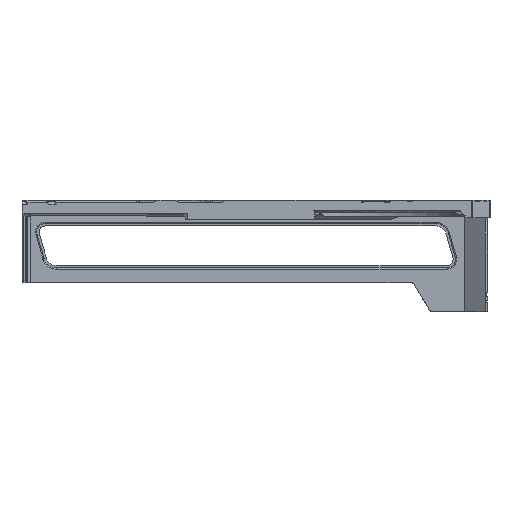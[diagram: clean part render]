
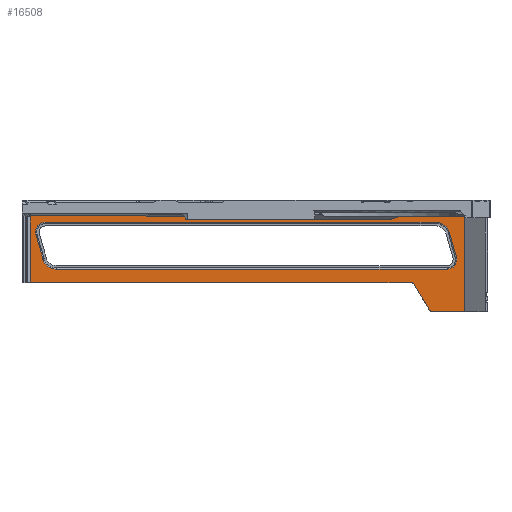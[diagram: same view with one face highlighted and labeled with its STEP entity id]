
A CAD part, front view. The second image highlights one B-rep face of the part: STEP entity #16508.
In plain terms, the highlighted planar face has unit normal (0, -1, 0).
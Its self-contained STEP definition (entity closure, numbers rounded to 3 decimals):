
#4031=DIRECTION('',(0.851,0.,-0.526));
#4032=VECTOR('',#4031,2.853);
#4033=CARTESIAN_POINT('',(79.098,60.6,-2.792));
#4034=LINE('',#4033,#4032);
#6463=CARTESIAN_POINT('',(140.828,60.6,-41.53));
#6464=DIRECTION('',(0.,1.,0.));
#6465=DIRECTION('',(0.,0.,-1.));
#6466=AXIS2_PLACEMENT_3D('',#6463,#6464,#6465);
#6478=CARTESIAN_POINT('',(142.343,60.6,-11.318));
#6479=DIRECTION('',(0.,1.,0.));
#6480=DIRECTION('',(0.,0.,1.));
#6481=AXIS2_PLACEMENT_3D('',#6478,#6479,#6480);
#6486=DIRECTION('',(1.,0.,0.));
#6487=VECTOR('',#6486,164.146);
#6488=CARTESIAN_POINT('',(-21.803,60.6,-5.518));
#6489=LINE('',#6488,#6487);
#6493=CARTESIAN_POINT('',(-21.803,60.6,-9.518));
#6494=DIRECTION('',(0.,1.,0.));
#6495=DIRECTION('',(-0.962,0.,-0.275));
#6496=AXIS2_PLACEMENT_3D('',#6493,#6494,#6495);
#6501=DIRECTION('',(-0.275,0.,0.962));
#6502=VECTOR('',#6501,10.706);
#6503=CARTESIAN_POINT('',(-22.708,60.6,-20.911));
#6504=LINE('',#6503,#6502);
#6508=CARTESIAN_POINT('',(-17.131,60.6,-19.318));
#6509=DIRECTION('',(0.,1.,0.));
#6510=DIRECTION('',(0.,0.,-1.));
#6511=AXIS2_PLACEMENT_3D('',#6508,#6509,#6510);
#6516=DIRECTION('',(-1.,0.,0.));
#6517=VECTOR('',#6516,164.146);
#6518=CARTESIAN_POINT('',(147.015,60.6,-25.118));
#6519=LINE('',#6518,#6517);
#6523=CARTESIAN_POINT('',(147.015,60.6,-21.118));
#6524=DIRECTION('',(0.,1.,0.));
#6525=DIRECTION('',(0.962,0.,0.275));
#6526=AXIS2_PLACEMENT_3D('',#6523,#6524,#6525);
#6531=DIRECTION('',(0.275,0.,-0.962));
#6532=VECTOR('',#6531,10.706);
#6533=CARTESIAN_POINT('',(147.92,60.6,-9.725));
#6534=LINE('',#6533,#6532);
#6538=DIRECTION('',(0.,0.,1.));
#6539=VECTOR('',#6538,28.026);
#6540=CARTESIAN_POINT('',(-27.945,60.6,-30.818));
#6541=LINE('',#6540,#6539);
#6545=DIRECTION('',(-1.,0.,0.));
#6546=VECTOR('',#6545,41.611);
#6547=CARTESIAN_POINT('',(123.136,60.6,-4.293));
#6548=LINE('',#6547,#6546);
#6552=DIRECTION('',(-0.851,0.,-0.526));
#6553=VECTOR('',#6552,3.254);
#6554=CARTESIAN_POINT('',(125.904,60.6,-2.582));
#6555=LINE('',#6554,#6553);
#6559=DIRECTION('',(-1.,0.,0.));
#6560=VECTOR('',#6559,13.449);
#6561=CARTESIAN_POINT('',(154.277,60.6,-43.03));
#6562=LINE('',#6561,#6560);
#6566=DIRECTION('',(-0.512,0.,0.859));
#6567=VECTOR('',#6566,12.513);
#6568=CARTESIAN_POINT('',(139.54,60.6,-42.298));
#6569=LINE('',#6568,#6567);
#6573=DIRECTION('',(-1.,0.,0.));
#6574=VECTOR('',#6573,159.789);
#6575=CARTESIAN_POINT('',(131.844,60.6,-30.818));
#6576=LINE('',#6575,#6574);
#7970=DIRECTION('',(-1.,0.,0.));
#7971=VECTOR('',#7970,107.041);
#7972=CARTESIAN_POINT('',(79.098,60.6,-2.792));
#7973=LINE('',#7972,#7971);
#8055=CARTESIAN_POINT('',(131.844,60.6,-32.318));
#8056=DIRECTION('',(0.,1.,0.));
#8057=DIRECTION('',(0.,0.,1.));
#8058=AXIS2_PLACEMENT_3D('',#8055,#8056,#8057);
#8329=DIRECTION('',(0.,0.,1.));
#8330=VECTOR('',#8329,40.162);
#8331=CARTESIAN_POINT('',(154.277,60.6,-43.03));
#8332=LINE('',#8331,#8330);
#8343=DIRECTION('',(0.861,0.,-0.508));
#8344=VECTOR('',#8343,0.563);
#8345=CARTESIAN_POINT('',(153.792,60.6,-2.582));
#8346=LINE('',#8345,#8344);
#8378=DIRECTION('',(1.,0.,0.));
#8379=VECTOR('',#8378,27.888);
#8380=CARTESIAN_POINT('',(125.904,60.6,-2.582));
#8381=LINE('',#8380,#8379);
#11157=CARTESIAN_POINT('',(153.792,60.6,-2.582));
#11158=CARTESIAN_POINT('',(154.277,60.6,-2.868));
#11159=VERTEX_POINT('',#11157);
#11160=VERTEX_POINT('',#11158);
#11167=CARTESIAN_POINT('',(140.828,60.6,-43.03));
#11168=CARTESIAN_POINT('',(139.54,60.6,-42.298));
#11169=VERTEX_POINT('',#11167);
#11170=VERTEX_POINT('',#11168);
#11171=CARTESIAN_POINT('',(131.844,60.6,-30.818));
#11172=CARTESIAN_POINT('',(133.133,60.6,-31.55));
#11173=VERTEX_POINT('',#11171);
#11174=VERTEX_POINT('',#11172);
#11175=CARTESIAN_POINT('',(125.904,60.6,-2.582));
#11176=VERTEX_POINT('',#11175);
#11177=CARTESIAN_POINT('',(123.136,60.6,-4.293));
#11178=VERTEX_POINT('',#11177);
#11179=CARTESIAN_POINT('',(81.525,60.6,-4.293));
#11180=VERTEX_POINT('',#11179);
#11181=CARTESIAN_POINT('',(154.277,60.6,-43.03));
#11182=VERTEX_POINT('',#11181);
#11183=CARTESIAN_POINT('',(79.098,60.6,-2.792));
#11184=VERTEX_POINT('',#11183);
#11185=CARTESIAN_POINT('',(142.343,60.6,-5.518));
#11186=CARTESIAN_POINT('',(147.92,60.6,-9.725));
#11187=VERTEX_POINT('',#11185);
#11188=VERTEX_POINT('',#11186);
#11193=CARTESIAN_POINT('',(150.861,60.6,-20.019));
#11194=VERTEX_POINT('',#11193);
#11197=CARTESIAN_POINT('',(147.015,60.6,-25.118));
#11198=VERTEX_POINT('',#11197);
#11201=CARTESIAN_POINT('',(-17.131,60.6,-25.118));
#11202=VERTEX_POINT('',#11201);
#11205=CARTESIAN_POINT('',(-22.708,60.6,-20.911));
#11206=VERTEX_POINT('',#11205);
#11209=CARTESIAN_POINT('',(-25.649,60.6,-10.617));
#11210=VERTEX_POINT('',#11209);
#11213=CARTESIAN_POINT('',(-21.803,60.6,-5.518));
#11214=VERTEX_POINT('',#11213);
#11217=CARTESIAN_POINT('',(-27.945,60.6,-30.818));
#11218=CARTESIAN_POINT('',(-27.943,60.6,-2.792));
#11219=VERTEX_POINT('',#11217);
#11220=VERTEX_POINT('',#11218);
#16461=CARTESIAN_POINT('',(162.5,60.6,0.));
#16462=DIRECTION('',(0.,1.,0.));
#16463=DIRECTION('',(-1.,0.,0.));
#16464=AXIS2_PLACEMENT_3D('',#16461,#16462,#16463);
#16465=PLANE('',#16464);
#16467=ORIENTED_EDGE('',*,*,#16466,.T.);
#16469=ORIENTED_EDGE('',*,*,#16468,.F.);
#16470=ORIENTED_EDGE('',*,*,#14416,.T.);
#16472=ORIENTED_EDGE('',*,*,#16471,.F.);
#16473=ORIENTED_EDGE('',*,*,#13116,.F.);
#16475=ORIENTED_EDGE('',*,*,#16474,.T.);
#16477=ORIENTED_EDGE('',*,*,#16476,.T.);
#16479=ORIENTED_EDGE('',*,*,#16478,.F.);
#16480=ORIENTED_EDGE('',*,*,#16439,.T.);
#16481=ORIENTED_EDGE('',*,*,#16452,.T.);
#16483=ORIENTED_EDGE('',*,*,#16482,.T.);
#16485=ORIENTED_EDGE('',*,*,#16484,.F.);
#16487=ORIENTED_EDGE('',*,*,#16486,.T.);
#16488=EDGE_LOOP('',(#16467,#16469,#16470,#16472,#16473,#16475,#16477,#16479,
#16480,#16481,#16483,#16485,#16487));
#16489=FACE_OUTER_BOUND('',#16488,.F.);
#16491=ORIENTED_EDGE('',*,*,#16490,.F.);
#16493=ORIENTED_EDGE('',*,*,#16492,.F.);
#16495=ORIENTED_EDGE('',*,*,#16494,.F.);
#16497=ORIENTED_EDGE('',*,*,#16496,.F.);
#16499=ORIENTED_EDGE('',*,*,#16498,.F.);
#16501=ORIENTED_EDGE('',*,*,#16500,.F.);
#16503=ORIENTED_EDGE('',*,*,#16502,.F.);
#16505=ORIENTED_EDGE('',*,*,#16504,.F.);
#16506=EDGE_LOOP('',(#16491,#16493,#16495,#16497,#16499,#16501,#16503,#16505));
#16507=FACE_BOUND('',#16506,.F.);
#6467=CIRCLE('',#6466,1.5);
#6482=CIRCLE('',#6481,5.8);
#6497=CIRCLE('',#6496,4.);
#6512=CIRCLE('',#6511,5.8);
#6527=CIRCLE('',#6526,4.);
#8059=CIRCLE('',#8058,1.5);
#13116=EDGE_CURVE('',#11176,#11178,#6555,.T.);
#14416=EDGE_CURVE('',#11184,#11180,#4034,.T.);
#16439=EDGE_CURVE('',#11182,#11169,#6562,.T.);
#16452=EDGE_CURVE('',#11169,#11170,#6467,.T.);
#16466=EDGE_CURVE('',#11219,#11220,#6541,.T.);
#16468=EDGE_CURVE('',#11184,#11220,#7973,.T.);
#16471=EDGE_CURVE('',#11178,#11180,#6548,.T.);
#16474=EDGE_CURVE('',#11176,#11159,#8381,.T.);
#16476=EDGE_CURVE('',#11159,#11160,#8346,.T.);
#16478=EDGE_CURVE('',#11182,#11160,#8332,.T.);
#16482=EDGE_CURVE('',#11170,#11174,#6569,.T.);
#16484=EDGE_CURVE('',#11173,#11174,#8059,.T.);
#16486=EDGE_CURVE('',#11173,#11219,#6576,.T.);
#16490=EDGE_CURVE('',#11187,#11188,#6482,.T.);
#16492=EDGE_CURVE('',#11214,#11187,#6489,.T.);
#16494=EDGE_CURVE('',#11210,#11214,#6497,.T.);
#16496=EDGE_CURVE('',#11206,#11210,#6504,.T.);
#16498=EDGE_CURVE('',#11202,#11206,#6512,.T.);
#16500=EDGE_CURVE('',#11198,#11202,#6519,.T.);
#16502=EDGE_CURVE('',#11194,#11198,#6527,.T.);
#16504=EDGE_CURVE('',#11188,#11194,#6534,.T.);
#16508=ADVANCED_FACE('',(#16489,#16507),#16465,.F.);
